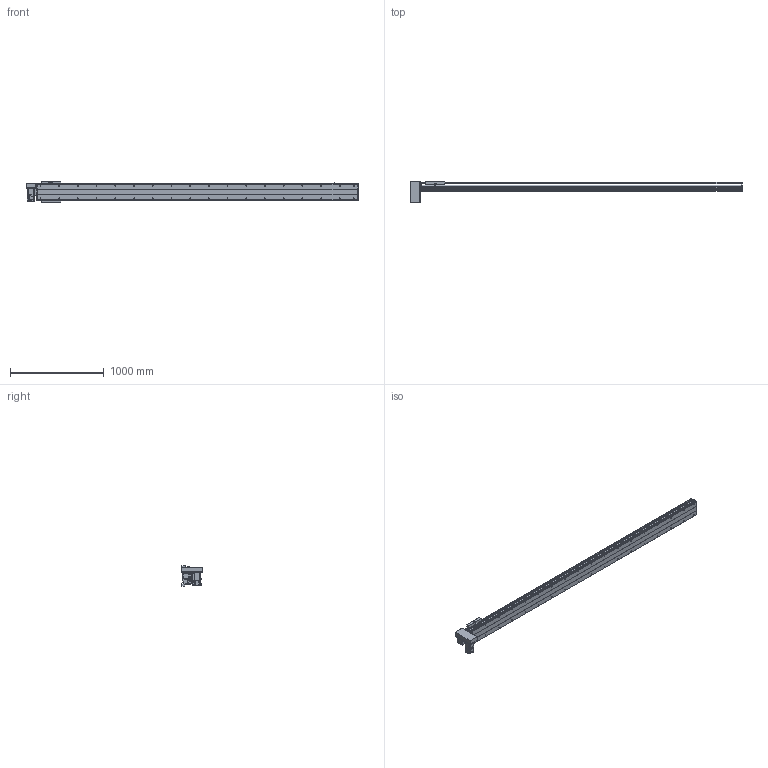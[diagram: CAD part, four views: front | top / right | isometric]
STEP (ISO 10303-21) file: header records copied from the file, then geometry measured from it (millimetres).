
FILE_DESCRIPTION(/* description */ ('STEP AP214'),/* implementation_level */ '2;1');
FILE_NAME(/* name */ 'PBS200-P40-S3050-RD-T75-C1-N(0)',/* time_stamp */ '2022-06-11T09:32:39+02:00',/* author */ ('License CC BY-ND 4.0'),/* organization */ ('CADENAS'),/* preprocessor_version */ 'ST-DEVELOPER v18.102',/* originating_system */ 'PARTsolutions',/* authorisation */ ' ');
FILE_SCHEMA (('AUTOMOTIVE_DESIGN {1 0 10303 214 3 1 1}'));
Length unit declared in the file: millimetre
Products named in the file (7): PBS200-P40-S3050-RD-T75-C1-N(0); PBS200_sensor; PBS200_plant; PBS200_sliser; T75-p1; PBS200T-RD_motors; PBS200-S3050()_body
Assembly tree (8 placements, depth 2):
  PBS200-P40-S3050-RD-T75-C1-N(0)
    PBS200_sensor  x3
    PBS200_plant
    PBS200_sliser
    T75-p1
    PBS200T-RD_motors
    PBS200-S3050()_body
Bounding box: 3550 x 230 x 221 mm (x, y, z)
Volume: 24038485.8 mm3; surface area: 3837766.1 mm2
Topology: 8 solids, 8 shells, 980 faces, 2474 edges, 1608 vertices
Faces by surface type: plane 594, cylinder 318, cone 68
Full cylindrical faces by diameter (mm): 2.459 x6, 3.242 x4, 4.5 x6, 4.917 x4, 5 x6, 6 x7, 6.6 x8, 6.647 x40, 8 x6, 10 x4, 12 x8, 38 x2, 40 x1, 70 x1
Entity records: 25781 total; most frequent: DIRECTION 4567, CARTESIAN_POINT 4372, ORIENTED_EDGE 4102, EDGE_CURVE 2051, AXIS2_PLACEMENT_3D 1627, VERTEX_POINT 1432, LINE 1313, VECTOR 1313
